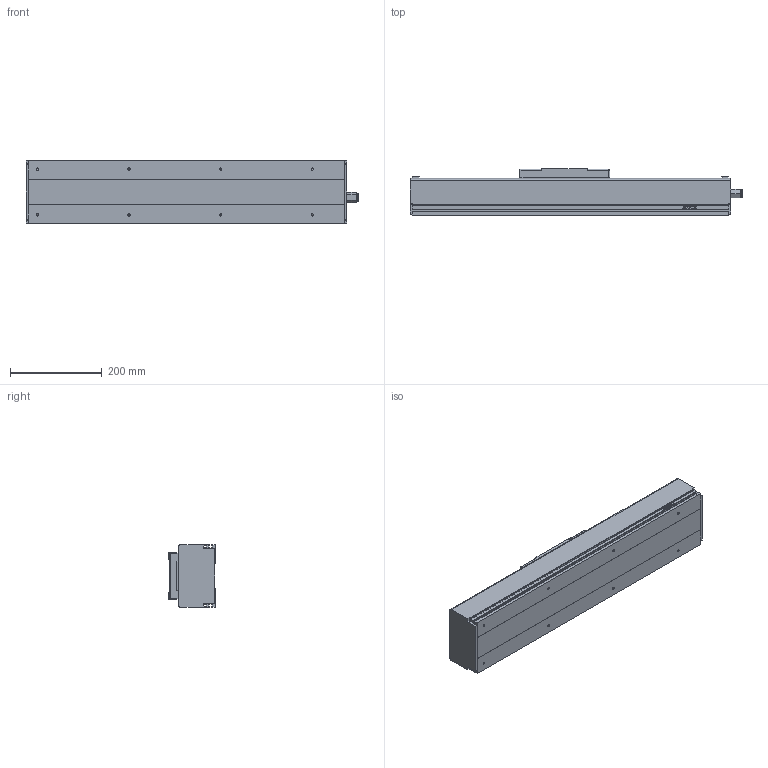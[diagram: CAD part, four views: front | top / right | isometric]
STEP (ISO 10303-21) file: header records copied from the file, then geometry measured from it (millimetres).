
FILE_DESCRIPTION(/* description */ (''),/* implementation_level */ '2;1');
FILE_NAME(/* name */ 'D:\混合母檔20191031\混和母檔\混和母檔\bin\Debug\Download\3D\KS140-20C-200AFI\KS140-20C-200AFI.stp',/* time_stamp */ '2019-11-04T15:36:06+08:00',/* author */ ('user'),/* organization */ (''),/* preprocessor_version */ 'ST-DEVELOPER v16.13',/* originating_system */ 'Autodesk Inventor 2018',/* authorisation */ '');
FILE_SCHEMA (('AUTOMOTIVE_DESIGN { 1 0 10303 214 3 1 1 }'));
Length unit declared in the file: millimetre
Products named in the file (3): KS140-20C-200AFI; KS140-FI-BP; KS140-SL
Assembly tree (2 placements, depth 2):
  KS140-20C-200AFI
    KS140-FI-BP
    KS140-SL
Bounding box: 724.5 x 101 x 136 mm (x, y, z)
Volume: 2907653.3 mm3; surface area: 747958.4 mm2
Topology: 4 solids, 8 shells, 675 faces, 1855 edges, 1219 vertices
Faces by surface type: plane 373, bspline 136, cylinder 76, cone 70, torus 16, sphere 4
Full cylindrical faces by diameter (mm): 3.571 x8, 4 x4, 4.134 x4, 4.3 x4, 4.917 x12, 6 x2, 8 x3, 8.4 x4, 12 x2, 13.1 x1, 15 x1, 18.75 x2, 46 x1, 50 x1
Entity records: 21897 total; most frequent: CARTESIAN_POINT 5893, ORIENTED_EDGE 3444, DIRECTION 2787, EDGE_CURVE 1721, VERTEX_POINT 1176, LINE 1143, VECTOR 1143, AXIS2_PLACEMENT_3D 822
